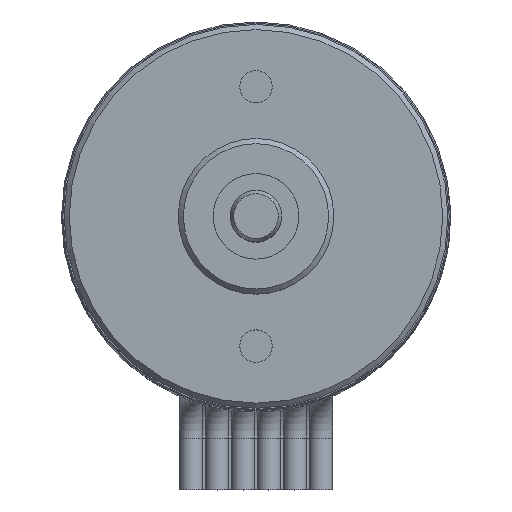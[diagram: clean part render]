
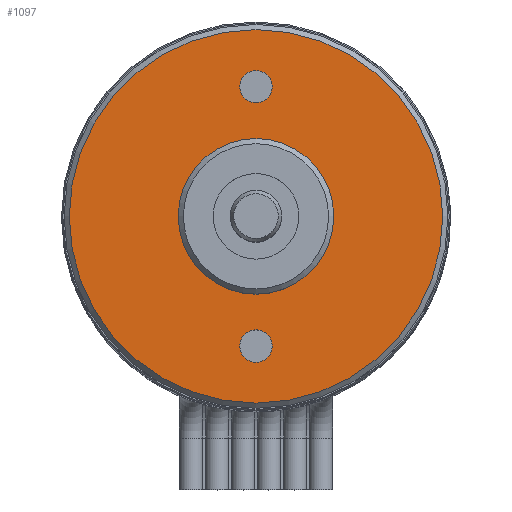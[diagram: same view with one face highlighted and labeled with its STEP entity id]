
A CAD part, top view. The second image highlights one B-rep face of the part: STEP entity #1097.
In plain terms, the highlighted planar face has unit normal (0, 0, 1).
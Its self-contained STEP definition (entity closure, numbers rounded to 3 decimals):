
#840=FACE_BOUND('',#1343,.T.);
#841=FACE_BOUND('',#1344,.T.);
#842=FACE_BOUND('',#1345,.T.);
#843=FACE_BOUND('',#1346,.T.);
#1027=CIRCLE('',#2606,3.);
#1028=CIRCLE('',#2608,0.625);
#1029=CIRCLE('',#2609,0.625);
#1030=CIRCLE('',#2610,7.2);
#1097=ADVANCED_FACE('',(#840,#841,#842,#843),#1171,.T.);
#1171=PLANE('',#2611);
#1343=EDGE_LOOP('',(#1814));
#1344=EDGE_LOOP('',(#1815));
#1345=EDGE_LOOP('',(#1816));
#1346=EDGE_LOOP('',(#1817));
#1814=ORIENTED_EDGE('',*,*,#2379,.F.);
#1815=ORIENTED_EDGE('',*,*,#2380,.F.);
#1816=ORIENTED_EDGE('',*,*,#2381,.T.);
#1817=ORIENTED_EDGE('',*,*,#2378,.T.);
#2205=VERTEX_POINT('',#3876);
#2206=VERTEX_POINT('',#3879);
#2207=VERTEX_POINT('',#3881);
#2208=VERTEX_POINT('',#3883);
#2378=EDGE_CURVE('',#2205,#2205,#1027,.T.);
#2379=EDGE_CURVE('',#2206,#2206,#1028,.T.);
#2380=EDGE_CURVE('',#2207,#2207,#1029,.T.);
#2381=EDGE_CURVE('',#2208,#2208,#1030,.T.);
#2606=AXIS2_PLACEMENT_3D('',#3875,#2998,#2999);
#2608=AXIS2_PLACEMENT_3D('',#3878,#3002,#3003);
#2609=AXIS2_PLACEMENT_3D('',#3880,#3004,#3005);
#2610=AXIS2_PLACEMENT_3D('',#3882,#3006,#3007);
#2611=AXIS2_PLACEMENT_3D('',#3884,#3008,#3009);
#2998=DIRECTION('',(0.,0.,-1.));
#2999=DIRECTION('',(1.,0.,0.));
#3002=DIRECTION('',(0.,0.,1.));
#3003=DIRECTION('',(1.,0.,0.));
#3004=DIRECTION('',(0.,0.,1.));
#3005=DIRECTION('',(1.,0.,0.));
#3006=DIRECTION('',(0.,0.,1.));
#3007=DIRECTION('',(1.,0.,0.));
#3008=DIRECTION('',(0.,0.,1.));
#3009=DIRECTION('',(1.,0.,0.));
#3875=CARTESIAN_POINT('',(0.,0.,0.));
#3876=CARTESIAN_POINT('',(3.,0.,0.));
#3878=CARTESIAN_POINT('',(0.,-5.,0.));
#3879=CARTESIAN_POINT('',(0.625,-5.,0.));
#3880=CARTESIAN_POINT('',(0.,5.,0.));
#3881=CARTESIAN_POINT('',(0.625,5.,0.));
#3882=CARTESIAN_POINT('',(0.,0.,0.));
#3883=CARTESIAN_POINT('',(7.2,0.,0.));
#3884=CARTESIAN_POINT('',(0.,0.,0.));
